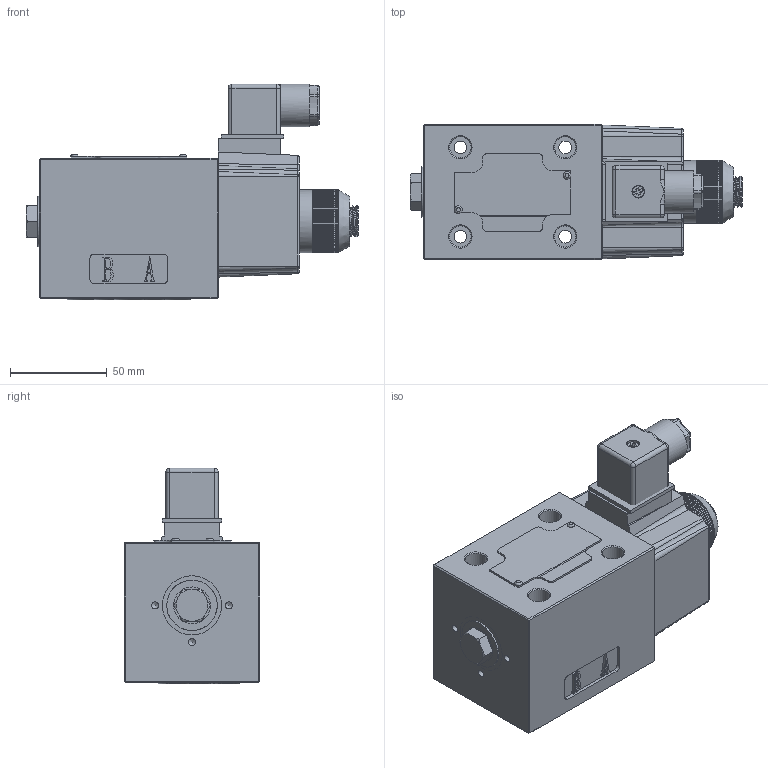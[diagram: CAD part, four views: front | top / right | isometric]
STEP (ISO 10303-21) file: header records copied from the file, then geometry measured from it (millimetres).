
FILE_DESCRIPTION(/* description */ (''),/* implementation_level */ '2;1');
FILE_NAME(/* name */ '4WE10-3XJ交流电磁阀（二位阀电磁铁在A端）.prt.stp',/* time_stamp */ '2022-03-30T19:33:27+08:00',/* author */ (''),/* organization */ (''),/* preprocessor_version */ 'ST-DEVELOPER v16.7',/* originating_system */ 'SIEMENS PLM Software NX 12.0',/* authorisation */ '');
FILE_SCHEMA (('AUTOMOTIVE_DESIGN { 1 0 10303 214 3 1 1 1 }'));
Products named in the file (1): 4WE10-3XJ交流电磁阀（二位阀电磁铁在A
端）
Bounding box: 171.2 x 70 x 111.25 mm (x, y, z)
Volume: 526866.1 mm3; surface area: 106944.5 mm2
Topology: 16 solids, 26 shells, 990 faces, 2583 edges, 1669 vertices
Faces by surface type: plane 559, cylinder 311, cone 47, torus 30, bspline 30, sphere 10, extrusion 3
Full cylindrical faces by diameter (mm): 1.8 x4, 1.9 x2, 2.55 x18, 3 x39, 3.5 x2, 3.6 x6, 6 x1, 6.5 x1, 6.6 x4, 7 x1, 8 x1, 11 x4, 12 x1, 12.085 x1, 15.7 x5, 16.5 x1, 17 x1, 21.4 x1, 22 x2, 23 x1, 26 x4, 27 x1, 31.4 x1, 31.5 x1, 32.5 x1
Entity records: 54215 total; most frequent: CARTESIAN_POINT 29654, ORIENTED_EDGE 4560, DIRECTION 4539, EDGE_CURVE 2280, AXIS2_PLACEMENT_3D 1574, VERTEX_POINT 1536, VECTOR 1391, LINE 1388
